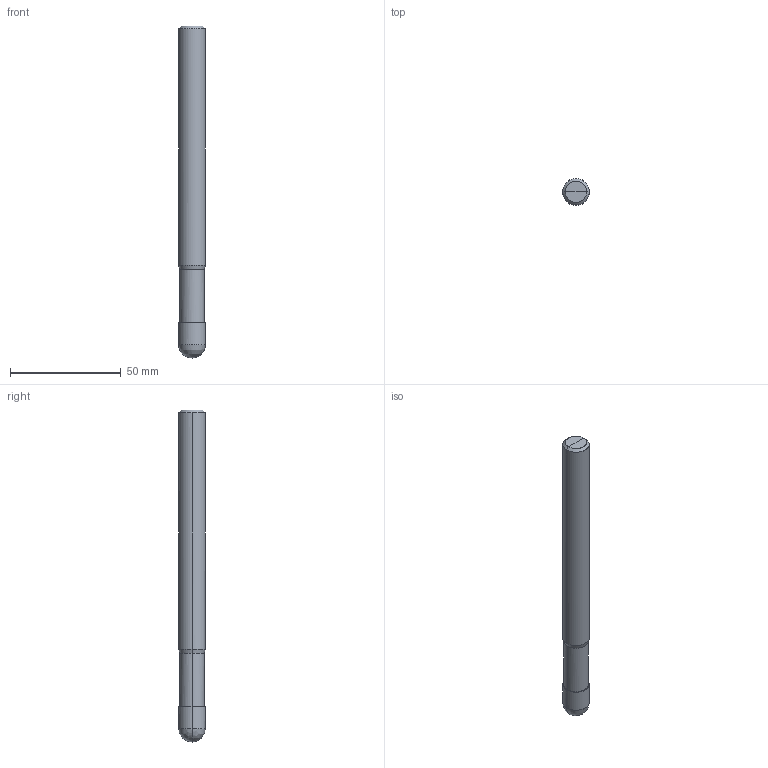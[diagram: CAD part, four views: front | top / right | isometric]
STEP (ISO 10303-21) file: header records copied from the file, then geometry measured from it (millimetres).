
FILE_DESCRIPTION(/* description */ (''),/* implementation_level */ '2;1');
FILE_NAME(/*name*/ '2142-12',/*time_stamp*/'2021-4-22T13:8:18',/*author*/ ('ISBE GmbH'),/*organization*/ ('ISBE GmbH'),/*preprocessor_version*/ 'STEP IO v1.0',/*originating_system*/ '',/*authorisation*/ '');
FILE_SCHEMA (('AUTOMOTIVE_DESIGN'));
Length unit declared in the file: millimetre
Products named in the file (1): Document
Bounding box: 12 x 11.98 x 150 mm (x, y, z)
Surface area: 5880 mm2 (no closed solid volume)
Topology: 0 solids, 18 shells, 18 faces, 74 edges, 68 vertices
Faces by surface type: bspline 18
Entity records: 713 total; most frequent: CARTESIAN_POINT 388, VERTEX_POINT 64, EDGE_CURVE 64, ORIENTED_EDGE 64, EDGE_LOOP 18, FACE_OUTER_BOUND 18, ADVANCED_FACE 18, DIRECTION 16
